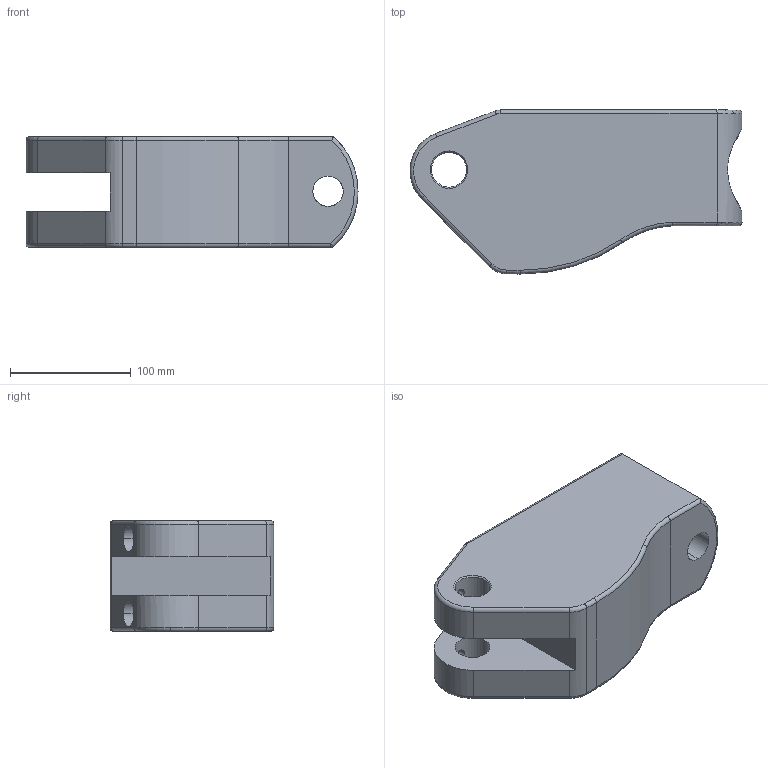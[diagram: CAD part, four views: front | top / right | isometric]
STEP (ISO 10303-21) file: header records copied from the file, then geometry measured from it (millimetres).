
FILE_DESCRIPTION (( 'STEP AP203' ), '1' );
FILE_NAME ('YYDK-500-0040 翻转连接块(500T) - 左侧.STEP', '2026-04-22T02:44:15', ( 'Windows 用户' ), ( '' ), 'SwSTEP 2.0', 'SolidWorks 2020', '' );
FILE_SCHEMA (( 'CONFIG_CONTROL_DESIGN' ));
Length unit declared in the file: millimetre
Products named in the file (1): YYDK-500-0040 楹蛌蟀諉輸(500T) - 酘耜
Bounding box: 275.29 x 135.88 x 91.98 mm (x, y, z)
Volume: 1844408.4 mm3; surface area: 162422 mm2
Topology: 1 solids, 1 shells, 92 faces, 224 edges, 134 vertices
Faces by surface type: cylinder 45, plane 20, torus 15, cone 4, bspline 4, sphere 4
Entity records: 5226 total; most frequent: CARTESIAN_POINT 2995, DIRECTION 465, ORIENTED_EDGE 440, EDGE_CURVE 220, AXIS2_PLACEMENT_3D 189, VERTEX_POINT 134, EDGE_LOOP 110, CIRCLE 100
